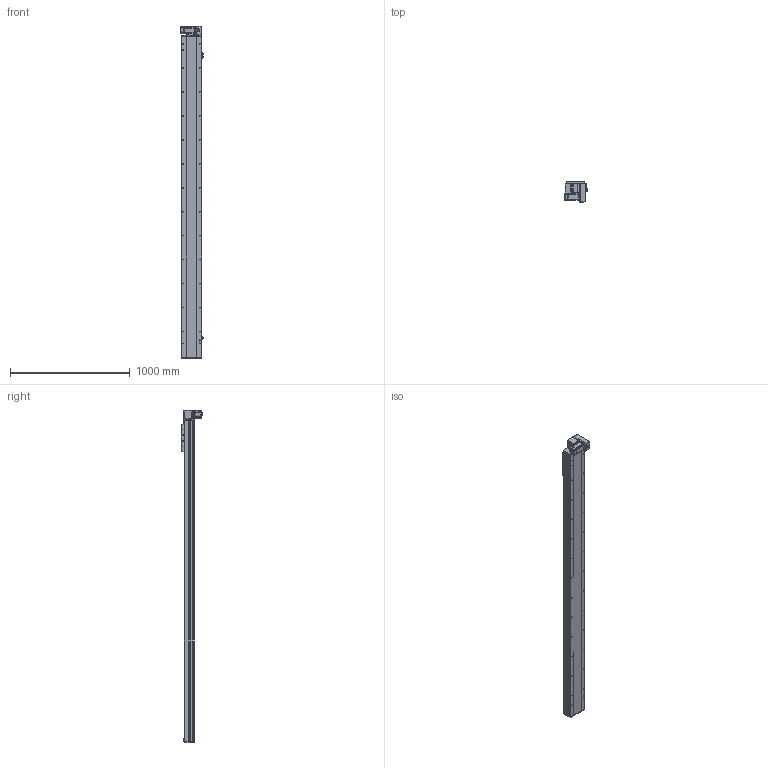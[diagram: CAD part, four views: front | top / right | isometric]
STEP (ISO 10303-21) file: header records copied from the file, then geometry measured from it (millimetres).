
FILE_DESCRIPTION (( 'STEP AP214' ), '1' );
FILE_NAME ('TPE17-L40-2350-RD-T40-C4.STEP', '2023-04-12T06:39:54', ( '' ), ( '' ), 'SwSTEP 2.0', 'SolidWorks 2020', '' );
FILE_SCHEMA (( 'AUTOMOTIVE_DESIGN' ));
Length unit declared in the file: millimetre
Products named in the file (12): 葩璃 pm-t65-672^TPE17-L40-RD-T40-C4; 葩璃 TPT14-L-009 萇儂啣^TPE17-L40-RD-T40-C4_400W; 葩璃 TPE17-L-001 菁釱MZ-170-01^TPE17-L40-RD-T40-C4; hex nuts, style 1-grades ab gb_GB_FASTENER_NUT_SNAB1 M3-N; 葩璃 TPE17-L-007 々湍釱MZ-169x88^TPE17-L40-RD-T40-C4_TPE17; TPE17-L40-2350-RD-T40-C4; hexagon head bolts-full thread gb_GB_FASTENER_BOLT_STBAB A M5X16-N; 葩璃 TPE17-L-002 耜裔ZTMZ-135-04^TPE17-L40-RD-T40-C4; hexagon socket head cap screws gb_GB_FASTENER_SCREWS_HSHCS M3X6-N; 葩璃 詩湍110^TPE17-L40-RD-T40-C4; 葩璃 TPE17 賑雄殤^TPE17-L40-RD-T40-C4; 葩璃 侂狟400W^TPE17-L40-RD-T40-C4
Assembly tree (24 placements, depth 2):
  TPE17-L40-2350-RD-T40-C4
    葩璃 TPE17-L-001 菁釱MZ-170-01^TPE17-L40-RD-T40-C4
    葩璃 TPE17-L-002 耜裔ZTMZ-135-04^TPE17-L40-RD-T40-C4  x2
    葩璃 詩湍110^TPE17-L40-RD-T40-C4
    葩璃 TPE17-L-007 々湍釱MZ-169x88^TPE17-L40-RD-T40-C4_TPE17
    葩璃 TPT14-L-009 萇儂啣^TPE17-L40-RD-T40-C4_400W
    葩璃 TPE17 賑雄殤^TPE17-L40-RD-T40-C4
    葩璃 pm-t65-672^TPE17-L40-RD-T40-C4  x3
    葩璃 侂狟400W^TPE17-L40-RD-T40-C4
    hexagon socket head cap screws gb_GB_FASTENER_SCREWS_HSHCS M3X6-N  x6
    hex nuts, style 1-grades ab gb_GB_FASTENER_NUT_SNAB1 M3-N  x6
    hexagon head bolts-full thread gb_GB_FASTENER_BOLT_STBAB A M5X16-N
Bounding box: 186.2 x 175.15 x 2769 mm (x, y, z)
Volume: 24390657.7 mm3; surface area: 3082280.4 mm2
Topology: 35 solids, 35 shells, 1754 faces, 4467 edges, 2798 vertices
Faces by surface type: plane 981, cylinder 493, cone 234, bspline 34, torus 12
Entity records: 41615 total; most frequent: CARTESIAN_POINT 8058, DIRECTION 6672, ORIENTED_EDGE 6406, EDGE_CURVE 3203, AXIS2_PLACEMENT_3D 2285, VECTOR 2102, LINE 2102, VERTEX_POINT 2061
